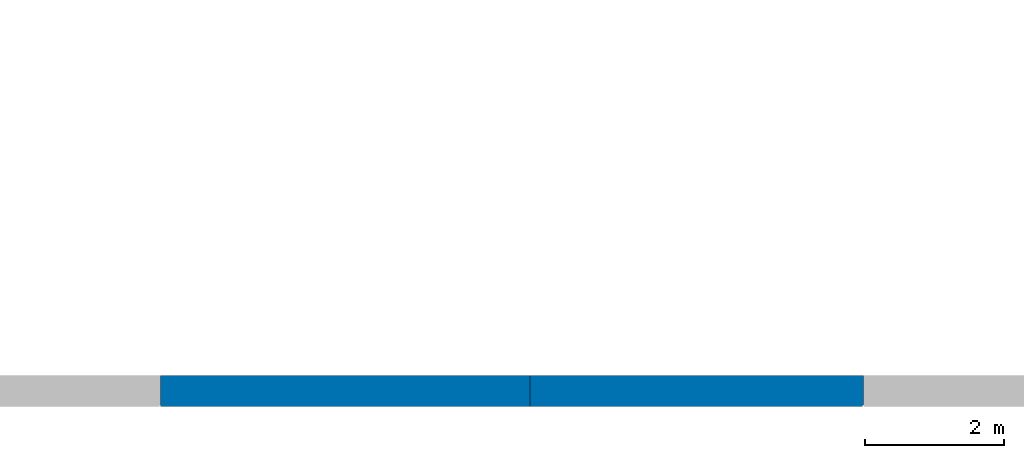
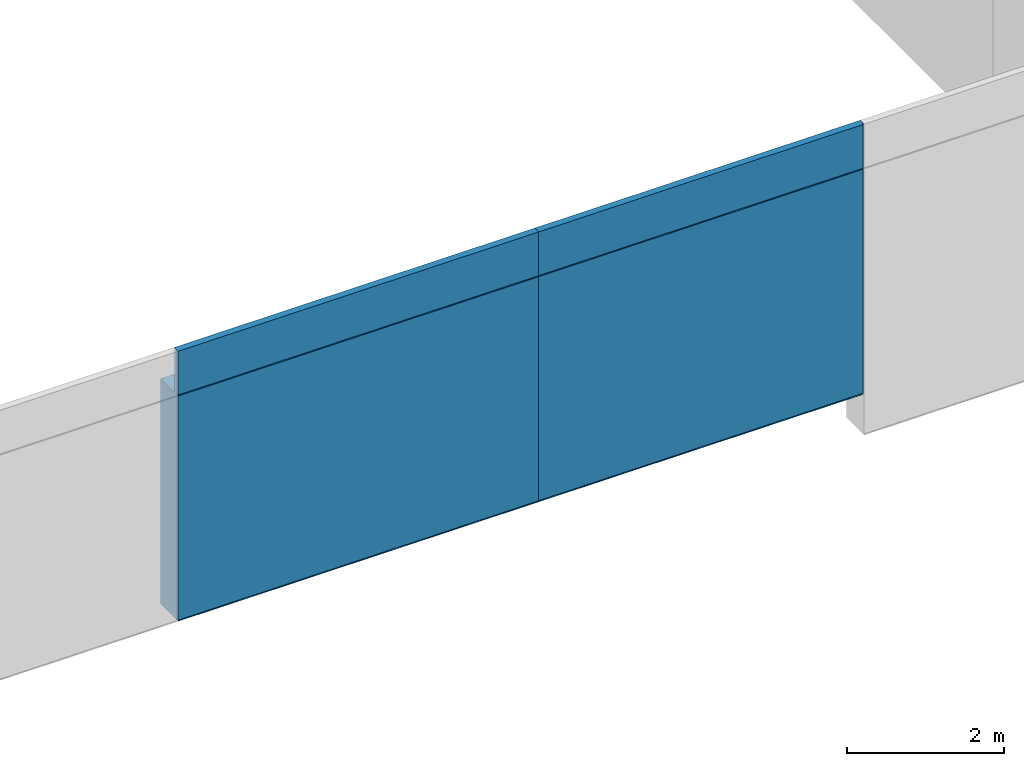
# One storey, part 16 of 33: 2 walls, 9 openings.
"""IFC2X3 building model written with IfcOpenShell, lengths in millimetres."""

from ifc_helpers import new_model, entity, si_unit, converted_unit, derived_unit, direction, frame, frame_2d, origin, place, context, subcontext, project, spatial, polyline, rectangle, extrude, clip, bounded_halfspace, material, layer, layer_set, layer_usage, type_object, element, save


model = new_model("IFC2X3")

# Units and contexts
model_context = context("Model", 3, precision=0.01, world=origin(), true_north=direction((6.12303176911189e-17, 1.0)))
body_context = subcontext(model_context, "Body", "Model", "MODEL_VIEW")
ifc_project = project(units=[si_unit("LENGTHUNIT", "METRE", prefix="MILLI"), si_unit("AREAUNIT", "SQUARE_METRE"), si_unit("VOLUMEUNIT", "CUBIC_METRE"), converted_unit("PLANEANGLEUNIT", "DEGREE", entity("IfcRatioMeasure", 0.0174532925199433), si_unit("PLANEANGLEUNIT", "RADIAN"), dimensions=[0, 0, 0, 0, 0, 0, 0]), si_unit("MASSUNIT", "GRAM", prefix="KILO"), derived_unit("MASSDENSITYUNIT", [(si_unit("MASSUNIT", "GRAM", prefix="KILO"), 1), (si_unit("LENGTHUNIT", "METRE"), -3)]), si_unit("TIMEUNIT", "SECOND"), si_unit("FREQUENCYUNIT", "HERTZ"), si_unit("THERMODYNAMICTEMPERATUREUNIT", "DEGREE_CELSIUS"), derived_unit("THERMALTRANSMITTANCEUNIT", [(si_unit("MASSUNIT", "GRAM", prefix="KILO"), 1), (si_unit("THERMODYNAMICTEMPERATUREUNIT", "KELVIN"), -1), (si_unit("TIMEUNIT", "SECOND"), -3)]), derived_unit("VOLUMETRICFLOWRATEUNIT", [(si_unit("LENGTHUNIT", "METRE"), 3), (si_unit("TIMEUNIT", "SECOND"), -1)]), si_unit("ELECTRICCURRENTUNIT", "AMPERE"), si_unit("ELECTRICVOLTAGEUNIT", "VOLT"), si_unit("POWERUNIT", "WATT"), si_unit("FORCEUNIT", "NEWTON", prefix="KILO"), si_unit("ILLUMINANCEUNIT", "LUX"), si_unit("LUMINOUSFLUXUNIT", "LUMEN"), si_unit("LUMINOUSINTENSITYUNIT", "CANDELA"), derived_unit("USERDEFINED", [(si_unit("MASSUNIT", "GRAM", prefix="KILO"), -1), (si_unit("LENGTHUNIT", "METRE"), -2), (si_unit("TIMEUNIT", "SECOND"), 3), (si_unit("LUMINOUSFLUXUNIT", "LUMEN"), 1)]), derived_unit("LINEARVELOCITYUNIT", [(si_unit("LENGTHUNIT", "METRE"), 1), (si_unit("TIMEUNIT", "SECOND"), -1)]), si_unit("PRESSUREUNIT", "PASCAL"), derived_unit("USERDEFINED", [(si_unit("LENGTHUNIT", "METRE"), -2), (si_unit("MASSUNIT", "GRAM", prefix="KILO"), 1), (si_unit("TIMEUNIT", "SECOND"), -2)])], contexts=[model_context])

# Site, building, storey
site_placement = place(None, origin())
site = spatial("IfcSite", under=ifc_project, at=site_placement, Name="Default", CompositionType="ELEMENT")
building_placement = place(site_placement, origin())
building = spatial("IfcBuilding", under=site, at=building_placement, CompositionType="ELEMENT")
storey_placement = place(building_placement, frame((0.0, 0.0, 4000.0)))
storey = spatial("IfcBuildingStorey", under=building, at=storey_placement, Name="2. KORRUS", CompositionType="ELEMENT", Elevation=4000.0)

# Wall, openings
ifc_material_1 = material(Name="RECKLI 1 173 THUR by Polantis 2016-toon4")
ifc_layer_1 = layer(ifc_material_1, 100.0)
ifc_material_2 = material(Name="Soojusisolatsioon EPS")
ifc_layer_2 = layer(ifc_material_2, 200.0)
ifc_material_3 = material(Name="r/b")
ifc_layer_3 = layer(ifc_material_3, 150.0)
ifc_layer_set_1 = layer_set([ifc_layer_1, ifc_layer_2, ifc_layer_3], Name="Basic Wall:VS-1_toon-a")
ifc_layer_usage_1 = layer_usage(ifc_layer_set_1, "AXIS2", "NEGATIVE", 225.0)
wall_type_1 = type_object("IfcWallType", Name="Basic Wall:VS-1_toon-a", PredefinedType="STANDARD", material=ifc_layer_set_1)
wall_1_placement = place(storey_placement, frame((34800.0, -225.0, 500.0), z_axis=(0.0, 0.0, 1.0), x_axis=(-1.0, 0.0, 0.0)))
wall_1 = element("IfcWallStandardCase", 1, at=wall_1_placement, inside=storey, type_object=wall_type_1, material=ifc_layer_usage_1, Name="Basic Wall:VS-1_toon-a", ObjectType="Basic Wall:VS-1_toon-a", context=body_context, shape_type="Clipping", body=[
    clip(extrude(rectangle(XDim=4790.0, YDim=450.0, at=frame_2d((2395.0, 1.4210854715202e-14), x_axis=(-1.0, 0.0))), origin(), (0.0, 0.0, 1.0), 4200.0), bounded_halfspace(frame((0.0, -225.0, 3500.0), z_axis=(0.0, 0.0, 1.0), x_axis=(0.0, 1.0, 0.0)), False, frame((0.0, -225.0, 3500.0)), polyline([(0.0, 0.0), (4790.0, 0.0), (4790.0, 350.0), (0.0, 350.0), (0.0, 0.0)]))),
])
opening_1_placement = place(wall_1_placement, origin())
element("IfcOpeningElement", 2, at=opening_1_placement, cuts=wall_1, Name="Basic Wall:VS-1_toon-a", ObjectType="Opening", context=body_context, shape_type="SweptSolid", body=[
    extrude(rectangle(XDim=4499.99999999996, YDim=3600.0, at=frame_2d((2.1600499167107e-12, 0.0), x_axis=(0.0, 1.0))), frame((1800.0, -1749.0, -2250.0), z_axis=(0.0, 1.0, 0.0), x_axis=(-1.0, 0.0, 0.0)), (0.0, 0.0, 1.0), 3048.0),
])
opening_2_placement = place(wall_1_placement, origin())
element("IfcOpeningElement", 3, at=opening_2_placement, cuts=wall_1, Name="Basic Wall:VS-1_toon-a", ObjectType="Recess", context=body_context, shape_type="SweptSolid", body=[
    extrude(rectangle(XDim=4200.0, YDim=16.0000000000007, at=frame_2d((0.0, -2.16626716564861e-12), x_axis=(1.0, 0.0))), frame((8.0, 205.0, 2100.0), z_axis=(0.0, 1.0, 0.0), x_axis=(0.0, 0.0, 1.0)), (0.0, 0.0, 1.0), 20.0000000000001),
])
opening_3_placement = place(wall_1_placement, origin())
element("IfcOpeningElement", 4, at=opening_3_placement, cuts=wall_1, Name="Basic Wall:VS-1_toon-a", ObjectType="Recess", context=body_context, shape_type="SweptSolid", body=[
    extrude(rectangle(XDim=4200.0, YDim=16.0000000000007, at=frame_2d((0.0, 2.16626716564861e-12), x_axis=(1.0, 0.0))), frame((4797.96738334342, 205.0, 2100.0), z_axis=(0.0, 1.0, 0.0), x_axis=(0.0, 0.0, 1.0)), (0.0, 0.0, 1.0), 20.0000000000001),
])
opening_4_placement = place(wall_1_placement, origin())
element("IfcOpeningElement", 5, at=opening_4_placement, cuts=wall_1, Name="Basic Wall:VS-1_toon-a", ObjectType="Recess", context=body_context, shape_type="SweptSolid", body=[
    extrude(rectangle(XDim=16.0000000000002, YDim=4790.0, at=frame_2d((0.0, 2.70450328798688e-13), x_axis=(0.0, 1.0))), frame((2395.0, 205.0, 12.0), z_axis=(0.0, 1.0, 0.0), x_axis=(1.0, 0.0, 0.0)), (0.0, 0.0, 1.0), 20.0000000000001),
    extrude(rectangle(XDim=16.0000000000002, YDim=4110.0, at=frame_2d((-1.13686837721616e-12, 2.70450328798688e-13), x_axis=(0.0, 1.0))), frame((21345.0, 205.0, 12.0), z_axis=(0.0, 1.0, 0.0), x_axis=(1.0, 0.0, 0.0)), (0.0, 0.0, 1.0), 19.9999999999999),
    extrude(rectangle(XDim=16.0000000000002, YDim=4600.0, at=frame_2d((1.13686837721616e-12, 2.70450328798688e-13), x_axis=(0.0, 1.0))), frame((16990.0, 205.0, 12.0), z_axis=(0.0, 1.0, 0.0), x_axis=(1.0, 0.0, 0.0)), (0.0, 0.0, 1.0), 20.0),
    extrude(rectangle(XDim=16.0000000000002, YDim=4600.0, at=frame_2d((2.27373675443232e-12, 2.70450328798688e-13), x_axis=(0.0, 1.0))), frame((12390.0, 205.0, 12.0), z_axis=(0.0, 1.0, 0.0), x_axis=(1.0, 0.0, 0.0)), (0.0, 0.0, 1.0), 20.0),
    extrude(rectangle(XDim=16.0000000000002, YDim=5299.99999999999, at=frame_2d((-2.04636307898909e-12, 2.70450328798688e-13), x_axis=(0.0, 1.0))), frame((7440.0, 205.0, 12.0), z_axis=(0.0, 1.0, 0.0), x_axis=(1.0, 0.0, 0.0)), (0.0, 0.0, 1.0), 20.0),
])
opening_5_placement = place(wall_1_placement, origin())
element("IfcOpeningElement", 6, at=opening_5_placement, cuts=wall_1, Name="Basic Wall:VS-1_toon-a", ObjectType="Opening", context=body_context, shape_type="SweptSolid", body=[
    extrude(rectangle(XDim=15.9999999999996, YDim=7590.0, at=frame_2d((0.0, 5.40900657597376e-13), x_axis=(0.0, 1.0))), frame((27195.0, 205.0, 3512.0), z_axis=(0.0, 1.0, 0.0), x_axis=(1.0, 0.0, 0.0)), (0.0, 0.0, 1.0), 20.0),
    extrude(rectangle(XDim=15.9999999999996, YDim=20.0, at=frame_2d((-3.37507799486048e-14, 5.40900657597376e-13), x_axis=(0.0, 1.0))), frame((35240.0, -28175.0, 3512.0), z_axis=(0.0, 1.0, 0.0), x_axis=(1.0, 0.0, 0.0)), (0.0, 0.0, 1.0), 4660.0),
    extrude(rectangle(XDim=15.9999999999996, YDim=5230.3475962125, at=frame_2d((1.13686837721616e-12, -5.40900657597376e-13), x_axis=(0.0, 1.0))), frame((22534.8262018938, -22175.0517807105, 3512.0), z_axis=(0.0, 1.0, 0.0), x_axis=(-1.0, 0.0, 0.0)), (0.0, 0.0, 1.0), 19.9999999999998),
    extrude(rectangle(XDim=15.9999999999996, YDim=4360.0, at=frame_2d((0.0, -5.40900657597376e-13), x_axis=(0.0, 1.0))), frame((33070.0, -28275.0, 3512.0), z_axis=(0.0, 1.0, 0.0), x_axis=(-1.0, 0.0, 0.0)), (0.0, 0.0, 1.0), 19.9999999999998),
    extrude(rectangle(XDim=15.9999999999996, YDim=5050.0, at=frame_2d((2.27373675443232e-12, 0.0), x_axis=(0.0, 1.0))), frame((-2525.0, 205.0, 3512.0), z_axis=(0.0, 1.0, 0.0), x_axis=(1.0, 0.0, 0.0)), (0.0, 0.0, 1.0), 20.0),
    extrude(rectangle(XDim=15.9999999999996, YDim=5979.89642978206, at=frame_2d((-2.27373675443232e-12, 0.0), x_axis=(0.0, 1.0))), frame((-2160.05178510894, -22175.0517807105, 3512.0), z_axis=(0.0, 1.0, 0.0), x_axis=(-1.0, 0.0, 0.0)), (0.0, 0.0, 1.0), 19.9999999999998),
    extrude(rectangle(XDim=15.9999999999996, YDim=5306.88742148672, at=frame_2d((2.04636307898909e-12, -5.40900657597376e-13), x_axis=(0.0, 1.0))), frame((3483.34014052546, -22175.0517807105, 3512.0), z_axis=(0.0, 1.0, 0.0), x_axis=(-1.0, 0.0, 0.0)), (0.0, 0.0, 1.0), 19.9999999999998),
    extrude(rectangle(XDim=15.9999999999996, YDim=19.9999999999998, at=frame_2d((-5.40900657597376e-13, 0.0), x_axis=(1.0, 0.0))), frame((25160.0, -28175.0, 3512.0), z_axis=(0.0, 1.0, 0.0), x_axis=(0.0, 0.0, -1.0)), (0.0, 0.0, 1.0), 6099.94821928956),
    extrude(rectangle(XDim=15.9999999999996, YDim=4160.00000000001, at=frame_2d((0.0, 5.40900657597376e-13), x_axis=(0.0, 1.0))), frame((33070.0, 205.0, 3512.0), z_axis=(0.0, 1.0, 0.0), x_axis=(1.0, 0.0, 0.0)), (0.0, 0.0, 1.0), 20.0),
    extrude(rectangle(XDim=15.9999999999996, YDim=20.0000000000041, at=frame_2d((5.40900657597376e-13, -4.33164615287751e-12), x_axis=(1.0, 0.0))), frame((-5140.0, -4640.0, 3512.0), z_axis=(0.0, 1.0, 0.0), x_axis=(0.0, 0.0, -1.0)), (0.0, 0.0, 1.0), 4865.0),
    extrude(rectangle(XDim=15.9999999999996, YDim=20.0000000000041, at=frame_2d((5.40900657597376e-13, -4.33164615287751e-12), x_axis=(1.0, 0.0))), frame((-5140.0, -8868.33000000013, 3512.0), z_axis=(0.0, 1.0, 0.0), x_axis=(0.0, 0.0, -1.0)), (0.0, 0.0, 1.0), 4228.33000000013),
    extrude(rectangle(XDim=15.9999999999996, YDim=20.0000000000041, at=frame_2d((5.40900657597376e-13, -4.33164615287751e-12), x_axis=(1.0, 0.0))), frame((-5140.0, -13105.0, 3512.0), z_axis=(0.0, 1.0, 0.0), x_axis=(0.0, 0.0, -1.0)), (0.0, 0.0, 1.0), 4236.66999997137),
    extrude(rectangle(XDim=15.9999999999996, YDim=20.0000000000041, at=frame_2d((5.40900657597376e-13, -4.33164615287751e-12), x_axis=(1.0, 0.0))), frame((-5140.0, -16015.0, 3512.0), z_axis=(0.0, 1.0, 0.0), x_axis=(0.0, 0.0, -1.0)), (0.0, 0.0, 1.0), 2910.00000002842),
    extrude(rectangle(XDim=15.9999999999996, YDim=20.0000000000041, at=frame_2d((-5.40900657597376e-13, 4.33164615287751e-12), x_axis=(1.0, 0.0))), frame((-5140.0, -22075.0517807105, 3512.0), z_axis=(0.0, 1.0, 0.0), x_axis=(0.0, 0.0, -1.0)), (0.0, 0.0, 1.0), 6060.05178071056),
    extrude(rectangle(XDim=15.9999999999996, YDim=3831.64710898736, at=frame_2d((2.1600499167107e-12, -5.40900657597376e-13), x_axis=(0.0, 1.0))), frame((14630.8235544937, -22175.0517807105, 3512.0), z_axis=(0.0, 1.0, 0.0), x_axis=(-1.0, 0.0, 0.0)), (0.0, 0.0, 1.0), 19.9999999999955),
    extrude(rectangle(XDim=15.9999999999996, YDim=3373.00529480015, at=frame_2d((0.0, -5.40900657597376e-13), x_axis=(0.0, 1.0))), frame((18233.1497563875, -22175.0517807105, 3512.0), z_axis=(0.0, 1.0, 0.0), x_axis=(-1.0, 0.0, 0.0)), (0.0, 0.0, 1.0), 19.9999999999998),
    extrude(rectangle(XDim=15.9999999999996, YDim=5739.99999999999, at=frame_2d((-2.27373675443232e-13, -5.40900657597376e-13), x_axis=(0.0, 1.0))), frame((28020.0, -28275.0, 3512.0), z_axis=(0.0, 1.0, 0.0), x_axis=(-1.0, 0.0, 0.0)), (0.0, 0.0, 1.0), 19.9999999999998),
    extrude(rectangle(XDim=15.9999999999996, YDim=20.0, at=frame_2d((3.37507799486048e-14, 5.40900657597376e-13), x_axis=(0.0, 1.0))), frame((35240.0, -23515.0, 3512.0), z_axis=(0.0, 1.0, 0.0), x_axis=(1.0, 0.0, 0.0)), (0.0, 0.0, 1.0), 6849.99930276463),
    extrude(rectangle(XDim=15.9999999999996, YDim=20.0, at=frame_2d((-3.37507799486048e-14, 5.40900657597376e-13), x_axis=(0.0, 1.0))), frame((35240.0, -16665.0006972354, 3512.0), z_axis=(0.0, 1.0, 0.0), x_axis=(1.0, 0.0, 0.0)), (0.0, 0.0, 1.0), 3430.00069726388),
    extrude(rectangle(XDim=15.9999999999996, YDim=6578.21614873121, at=frame_2d((0.0, -5.40900657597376e-13), x_axis=(0.0, 1.0))), frame((9425.89192563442, -22175.0517807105, 3512.0), z_axis=(0.0, 1.0, 0.0), x_axis=(-1.0, 0.0, 0.0)), (0.0, 0.0, 1.0), 19.9999999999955),
    extrude(rectangle(XDim=15.9999999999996, YDim=4110.00000000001, at=frame_2d((0.0, 5.40900657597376e-13), x_axis=(0.0, 1.0))), frame((21345.0, 205.0, 3512.0), z_axis=(0.0, 1.0, 0.0), x_axis=(1.0, 0.0, 0.0)), (0.0, 0.0, 1.0), 19.9999999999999),
    extrude(rectangle(XDim=15.9999999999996, YDim=4600.0, at=frame_2d((1.13686837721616e-12, 5.40900657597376e-13), x_axis=(0.0, 1.0))), frame((16990.0, 205.0, 3512.0), z_axis=(0.0, 1.0, 0.0), x_axis=(1.0, 0.0, 0.0)), (0.0, 0.0, 1.0), 20.0),
    extrude(rectangle(XDim=15.9999999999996, YDim=4600.0, at=frame_2d((2.27373675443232e-12, 5.40900657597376e-13), x_axis=(0.0, 1.0))), frame((12390.0, 205.0, 3512.0), z_axis=(0.0, 1.0, 0.0), x_axis=(1.0, 0.0, 0.0)), (0.0, 0.0, 1.0), 20.0),
    extrude(rectangle(XDim=15.9999999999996, YDim=5299.99999999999, at=frame_2d((-2.04636307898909e-12, 5.40900657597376e-13), x_axis=(0.0, 1.0))), frame((7440.0, 205.0, 3512.0), z_axis=(0.0, 1.0, 0.0), x_axis=(1.0, 0.0, 0.0)), (0.0, 0.0, 1.0), 20.0),
    extrude(rectangle(XDim=15.9999999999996, YDim=4790.0, at=frame_2d((0.0, 5.40900657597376e-13), x_axis=(0.0, 1.0))), frame((2395.0, 205.0, 3512.0), z_axis=(0.0, 1.0, 0.0), x_axis=(1.0, 0.0, 0.0)), (0.0, 0.0, 1.0), 20.0000000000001),
    extrude(rectangle(XDim=15.9999999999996, YDim=20.0, at=frame_2d((3.37507799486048e-14, 5.40900657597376e-13), x_axis=(0.0, 1.0))), frame((35240.0, -13235.0, 3512.0), z_axis=(0.0, 1.0, 0.0), x_axis=(1.0, 0.0, 0.0)), (0.0, 0.0, 1.0), 4724.85920481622),
    extrude(rectangle(XDim=15.9999999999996, YDim=20.0, at=frame_2d((-3.37507799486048e-14, 5.40900657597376e-13), x_axis=(0.0, 1.0))), frame((35240.0, -8510.1407951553, 3512.0), z_axis=(0.0, 1.0, 0.0), x_axis=(1.0, 0.0, 0.0)), (0.0, 0.0, 1.0), 8735.1407951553),
])

ifc_material_4 = material(Name="RECKLI 1 173 THUR by Polantis 2016-toon3")
ifc_layer_4 = layer(ifc_material_4, 100.0)
ifc_layer_5 = layer(ifc_material_2, 200.0)
ifc_layer_6 = layer(ifc_material_3, 150.0)
ifc_layer_set_2 = layer_set([ifc_layer_4, ifc_layer_5, ifc_layer_6], Name="Basic Wall:VS-1_toon-b")
ifc_layer_usage_2 = layer_usage(ifc_layer_set_2, "AXIS2", "NEGATIVE", 225.0)
wall_type_2 = type_object("IfcWallType", Name="Basic Wall:VS-1_toon-b", PredefinedType="STANDARD", material=ifc_layer_set_2)
wall_2_placement = place(storey_placement, frame((30010.0, -225.0, 500.0), z_axis=(0.0, 0.0, 1.0), x_axis=(-1.0, 0.0, 0.0)))
wall_2 = element("IfcWallStandardCase", 7, at=wall_2_placement, inside=storey, type_object=wall_type_2, material=ifc_layer_usage_2, Name="Basic Wall:VS-1_toon-b", ObjectType="Basic Wall:VS-1_toon-b", context=body_context, shape_type="Clipping", body=[
    clip(extrude(rectangle(XDim=5299.99999999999, YDim=450.0, at=frame_2d((2650.0, -2.8421709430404e-14), x_axis=(-1.0, 0.0))), origin(), (0.0, 0.0, 1.0), 4200.0), bounded_halfspace(frame((0.0, -225.0, 3500.0), z_axis=(0.0, 0.0, 1.0), x_axis=(0.0, 1.0, 0.0)), False, frame((0.0, -225.0, 3500.0)), polyline([(0.0, 0.0), (5300.0, 0.0), (5300.0, 350.0), (0.0, 350.0), (0.0, 0.0)]))),
])
opening_6_placement = place(wall_2_placement, origin())
element("IfcOpeningElement", 8, at=opening_6_placement, cuts=wall_2, Name="Basic Wall:VS-1_toon-b", ObjectType="Opening", context=body_context, shape_type="SweptSolid", body=[
    extrude(rectangle(XDim=4499.99999999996, YDim=3600.0, at=frame_2d((2.1600499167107e-12, 2.27373675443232e-13), x_axis=(0.0, 1.0))), frame((3010.0, -1749.0, -2250.0), z_axis=(0.0, 1.0, 0.0), x_axis=(-1.0, 0.0, 0.0)), (0.0, 0.0, 1.0), 3048.0),
])
opening_7_placement = place(wall_2_placement, origin())
element("IfcOpeningElement", 9, at=opening_7_placement, cuts=wall_2, Name="Basic Wall:VS-1_toon-b", ObjectType="Recess", context=body_context, shape_type="SweptSolid", body=[
    extrude(rectangle(XDim=4200.0, YDim=16.0000000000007, at=frame_2d((0.0, -2.16626716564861e-12), x_axis=(1.0, 0.0))), frame((5307.96833703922, 205.0, 2100.0), z_axis=(0.0, 1.0, 0.0), x_axis=(0.0, 0.0, 1.0)), (0.0, 0.0, 1.0), 20.0000000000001),
])
opening_8_placement = place(wall_2_placement, origin())
element("IfcOpeningElement", 10, at=opening_8_placement, cuts=wall_2, Name="Basic Wall:VS-1_toon-b", ObjectType="Recess", context=body_context, shape_type="SweptSolid", body=[
    extrude(rectangle(XDim=16.0000000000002, YDim=4790.0, at=frame_2d((0.0, 2.70450328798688e-13), x_axis=(0.0, 1.0))), frame((-2395.0, 205.0, 12.0), z_axis=(0.0, 1.0, 0.0), x_axis=(1.0, 0.0, 0.0)), (0.0, 0.0, 1.0), 20.0000000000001),
    extrude(rectangle(XDim=16.0000000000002, YDim=4110.0, at=frame_2d((-1.13686837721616e-12, 2.70450328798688e-13), x_axis=(0.0, 1.0))), frame((16555.0, 205.0, 12.0), z_axis=(0.0, 1.0, 0.0), x_axis=(1.0, 0.0, 0.0)), (0.0, 0.0, 1.0), 19.9999999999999),
    extrude(rectangle(XDim=16.0000000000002, YDim=4600.0, at=frame_2d((1.13686837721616e-12, 2.70450328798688e-13), x_axis=(0.0, 1.0))), frame((12200.0, 205.0, 12.0), z_axis=(0.0, 1.0, 0.0), x_axis=(1.0, 0.0, 0.0)), (0.0, 0.0, 1.0), 20.0),
    extrude(rectangle(XDim=16.0000000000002, YDim=4600.0, at=frame_2d((2.27373675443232e-12, 2.70450328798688e-13), x_axis=(0.0, 1.0))), frame((7600.0, 205.0, 12.0), z_axis=(0.0, 1.0, 0.0), x_axis=(1.0, 0.0, 0.0)), (0.0, 0.0, 1.0), 20.0),
    extrude(rectangle(XDim=16.0000000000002, YDim=5299.99999999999, at=frame_2d((-2.04636307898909e-12, 2.70450328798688e-13), x_axis=(0.0, 1.0))), frame((2650.0, 205.0, 12.0), z_axis=(0.0, 1.0, 0.0), x_axis=(1.0, 0.0, 0.0)), (0.0, 0.0, 1.0), 20.0),
])
opening_9_placement = place(wall_2_placement, origin())
element("IfcOpeningElement", 11, at=opening_9_placement, cuts=wall_2, Name="Basic Wall:VS-1_toon-b", ObjectType="Opening", context=body_context, shape_type="SweptSolid", body=[
    extrude(rectangle(XDim=15.9999999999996, YDim=7590.0, at=frame_2d((0.0, 5.40900657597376e-13), x_axis=(0.0, 1.0))), frame((22405.0, 205.0, 3512.0), z_axis=(0.0, 1.0, 0.0), x_axis=(1.0, 0.0, 0.0)), (0.0, 0.0, 1.0), 20.0),
    extrude(rectangle(XDim=15.9999999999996, YDim=20.0, at=frame_2d((-3.37507799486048e-14, 5.40900657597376e-13), x_axis=(0.0, 1.0))), frame((30450.0, -28175.0, 3512.0), z_axis=(0.0, 1.0, 0.0), x_axis=(1.0, 0.0, 0.0)), (0.0, 0.0, 1.0), 4660.0),
    extrude(rectangle(XDim=15.9999999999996, YDim=5230.3475962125, at=frame_2d((1.13686837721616e-12, -5.40900657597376e-13), x_axis=(0.0, 1.0))), frame((17744.8262018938, -22175.0517807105, 3512.0), z_axis=(0.0, 1.0, 0.0), x_axis=(-1.0, 0.0, 0.0)), (0.0, 0.0, 1.0), 19.9999999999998),
    extrude(rectangle(XDim=15.9999999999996, YDim=4360.0, at=frame_2d((0.0, -5.40900657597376e-13), x_axis=(0.0, 1.0))), frame((28280.0, -28275.0, 3512.0), z_axis=(0.0, 1.0, 0.0), x_axis=(-1.0, 0.0, 0.0)), (0.0, 0.0, 1.0), 19.9999999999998),
    extrude(rectangle(XDim=15.9999999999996, YDim=5050.0, at=frame_2d((2.27373675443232e-12, 0.0), x_axis=(0.0, 1.0))), frame((-7315.0, 205.0, 3512.0), z_axis=(0.0, 1.0, 0.0), x_axis=(1.0, 0.0, 0.0)), (0.0, 0.0, 1.0), 20.0),
    extrude(rectangle(XDim=15.9999999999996, YDim=5979.89642978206, at=frame_2d((-2.27373675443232e-12, 0.0), x_axis=(0.0, 1.0))), frame((-6950.05178510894, -22175.0517807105, 3512.0), z_axis=(0.0, 1.0, 0.0), x_axis=(-1.0, 0.0, 0.0)), (0.0, 0.0, 1.0), 19.9999999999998),
    extrude(rectangle(XDim=15.9999999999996, YDim=5306.88742148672, at=frame_2d((2.04636307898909e-12, -5.40900657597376e-13), x_axis=(0.0, 1.0))), frame((-1306.65985947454, -22175.0517807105, 3512.0), z_axis=(0.0, 1.0, 0.0), x_axis=(-1.0, 0.0, 0.0)), (0.0, 0.0, 1.0), 19.9999999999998),
    extrude(rectangle(XDim=15.9999999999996, YDim=19.9999999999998, at=frame_2d((-5.40900657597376e-13, 0.0), x_axis=(1.0, 0.0))), frame((20370.0, -28175.0, 3512.0), z_axis=(0.0, 1.0, 0.0), x_axis=(0.0, 0.0, -1.0)), (0.0, 0.0, 1.0), 6099.94821928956),
    extrude(rectangle(XDim=15.9999999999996, YDim=4160.00000000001, at=frame_2d((0.0, 5.40900657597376e-13), x_axis=(0.0, 1.0))), frame((28280.0, 205.0, 3512.0), z_axis=(0.0, 1.0, 0.0), x_axis=(1.0, 0.0, 0.0)), (0.0, 0.0, 1.0), 20.0),
    extrude(rectangle(XDim=15.9999999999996, YDim=20.0000000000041, at=frame_2d((5.40900657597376e-13, -4.33164615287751e-12), x_axis=(1.0, 0.0))), frame((-9930.0, -4640.0, 3512.0), z_axis=(0.0, 1.0, 0.0), x_axis=(0.0, 0.0, -1.0)), (0.0, 0.0, 1.0), 4865.0),
    extrude(rectangle(XDim=15.9999999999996, YDim=20.0000000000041, at=frame_2d((5.40900657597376e-13, -4.33164615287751e-12), x_axis=(1.0, 0.0))), frame((-9930.0, -8868.33000000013, 3512.0), z_axis=(0.0, 1.0, 0.0), x_axis=(0.0, 0.0, -1.0)), (0.0, 0.0, 1.0), 4228.33000000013),
    extrude(rectangle(XDim=15.9999999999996, YDim=20.0000000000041, at=frame_2d((5.40900657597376e-13, -4.33164615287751e-12), x_axis=(1.0, 0.0))), frame((-9930.0, -13105.0, 3512.0), z_axis=(0.0, 1.0, 0.0), x_axis=(0.0, 0.0, -1.0)), (0.0, 0.0, 1.0), 4236.66999997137),
    extrude(rectangle(XDim=15.9999999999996, YDim=20.0000000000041, at=frame_2d((5.40900657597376e-13, -4.33164615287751e-12), x_axis=(1.0, 0.0))), frame((-9930.0, -16015.0, 3512.0), z_axis=(0.0, 1.0, 0.0), x_axis=(0.0, 0.0, -1.0)), (0.0, 0.0, 1.0), 2910.00000002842),
    extrude(rectangle(XDim=15.9999999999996, YDim=20.0000000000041, at=frame_2d((-5.40900657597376e-13, 4.33164615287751e-12), x_axis=(1.0, 0.0))), frame((-9930.0, -22075.0517807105, 3512.0), z_axis=(0.0, 1.0, 0.0), x_axis=(0.0, 0.0, -1.0)), (0.0, 0.0, 1.0), 6060.05178071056),
    extrude(rectangle(XDim=15.9999999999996, YDim=3831.64710898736, at=frame_2d((2.1600499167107e-12, -5.40900657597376e-13), x_axis=(0.0, 1.0))), frame((9840.82355449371, -22175.0517807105, 3512.0), z_axis=(0.0, 1.0, 0.0), x_axis=(-1.0, 0.0, 0.0)), (0.0, 0.0, 1.0), 19.9999999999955),
    extrude(rectangle(XDim=15.9999999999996, YDim=3373.00529480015, at=frame_2d((0.0, -5.40900657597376e-13), x_axis=(0.0, 1.0))), frame((13443.1497563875, -22175.0517807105, 3512.0), z_axis=(0.0, 1.0, 0.0), x_axis=(-1.0, 0.0, 0.0)), (0.0, 0.0, 1.0), 19.9999999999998),
    extrude(rectangle(XDim=15.9999999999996, YDim=5739.99999999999, at=frame_2d((-2.27373675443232e-13, -5.40900657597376e-13), x_axis=(0.0, 1.0))), frame((23230.0, -28275.0, 3512.0), z_axis=(0.0, 1.0, 0.0), x_axis=(-1.0, 0.0, 0.0)), (0.0, 0.0, 1.0), 19.9999999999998),
    extrude(rectangle(XDim=15.9999999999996, YDim=20.0, at=frame_2d((3.37507799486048e-14, 5.40900657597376e-13), x_axis=(0.0, 1.0))), frame((30450.0, -23515.0, 3512.0), z_axis=(0.0, 1.0, 0.0), x_axis=(1.0, 0.0, 0.0)), (0.0, 0.0, 1.0), 6849.99930276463),
    extrude(rectangle(XDim=15.9999999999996, YDim=20.0, at=frame_2d((-3.37507799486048e-14, 5.40900657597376e-13), x_axis=(0.0, 1.0))), frame((30450.0, -16665.0006972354, 3512.0), z_axis=(0.0, 1.0, 0.0), x_axis=(1.0, 0.0, 0.0)), (0.0, 0.0, 1.0), 3430.00069726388),
    extrude(rectangle(XDim=15.9999999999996, YDim=6578.21614873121, at=frame_2d((0.0, -5.40900657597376e-13), x_axis=(0.0, 1.0))), frame((4635.89192563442, -22175.0517807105, 3512.0), z_axis=(0.0, 1.0, 0.0), x_axis=(-1.0, 0.0, 0.0)), (0.0, 0.0, 1.0), 19.9999999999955),
    extrude(rectangle(XDim=15.9999999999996, YDim=4110.00000000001, at=frame_2d((0.0, 5.40900657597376e-13), x_axis=(0.0, 1.0))), frame((16555.0, 205.0, 3512.0), z_axis=(0.0, 1.0, 0.0), x_axis=(1.0, 0.0, 0.0)), (0.0, 0.0, 1.0), 19.9999999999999),
    extrude(rectangle(XDim=15.9999999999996, YDim=4600.0, at=frame_2d((1.13686837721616e-12, 5.40900657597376e-13), x_axis=(0.0, 1.0))), frame((12200.0, 205.0, 3512.0), z_axis=(0.0, 1.0, 0.0), x_axis=(1.0, 0.0, 0.0)), (0.0, 0.0, 1.0), 20.0),
    extrude(rectangle(XDim=15.9999999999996, YDim=4600.0, at=frame_2d((2.27373675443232e-12, 5.40900657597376e-13), x_axis=(0.0, 1.0))), frame((7600.0, 205.0, 3512.0), z_axis=(0.0, 1.0, 0.0), x_axis=(1.0, 0.0, 0.0)), (0.0, 0.0, 1.0), 20.0),
    extrude(rectangle(XDim=15.9999999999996, YDim=5299.99999999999, at=frame_2d((-2.04636307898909e-12, 5.40900657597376e-13), x_axis=(0.0, 1.0))), frame((2650.0, 205.0, 3512.0), z_axis=(0.0, 1.0, 0.0), x_axis=(1.0, 0.0, 0.0)), (0.0, 0.0, 1.0), 20.0),
    extrude(rectangle(XDim=15.9999999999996, YDim=4790.0, at=frame_2d((0.0, 5.40900657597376e-13), x_axis=(0.0, 1.0))), frame((-2395.0, 205.0, 3512.0), z_axis=(0.0, 1.0, 0.0), x_axis=(1.0, 0.0, 0.0)), (0.0, 0.0, 1.0), 20.0000000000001),
    extrude(rectangle(XDim=15.9999999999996, YDim=20.0, at=frame_2d((3.37507799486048e-14, 5.40900657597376e-13), x_axis=(0.0, 1.0))), frame((30450.0, -13235.0, 3512.0), z_axis=(0.0, 1.0, 0.0), x_axis=(1.0, 0.0, 0.0)), (0.0, 0.0, 1.0), 4724.85920481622),
    extrude(rectangle(XDim=15.9999999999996, YDim=20.0, at=frame_2d((-3.37507799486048e-14, 5.40900657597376e-13), x_axis=(0.0, 1.0))), frame((30450.0, -8510.1407951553, 3512.0), z_axis=(0.0, 1.0, 0.0), x_axis=(1.0, 0.0, 0.0)), (0.0, 0.0, 1.0), 8735.1407951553),
])

save(model, "model.ifc")
